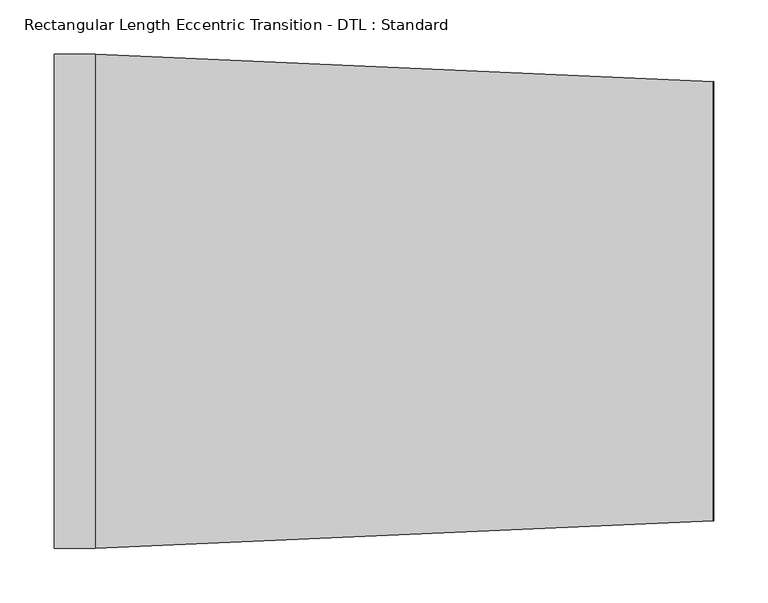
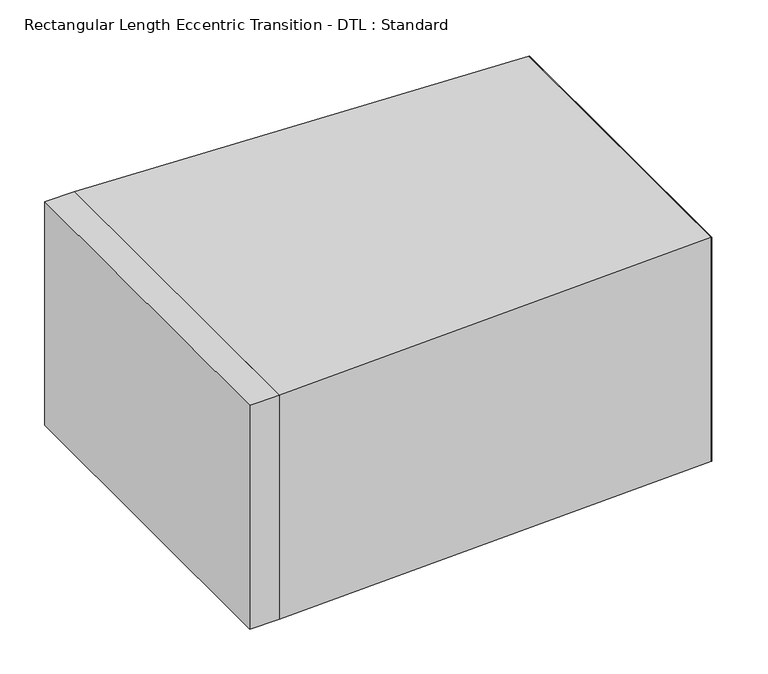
"""IFC4 building model written with IfcOpenShell, lengths in millimetres: duct fitting geometry, Rectangular Length Eccentric Transition - DTL : Standard."""

from ifc_helpers import new_model, si_unit, frame, origin, place, context, project, spatial, polyline, outline, extrude, source, transform, mapped, element, save


def rectangular_length_eccentric_transition_dtl_standard_1da9befa(model_context):
    return source(origin(), model_context, "Body", "SweptSolid", [
        extrude(outline(polyline([(609.6, 203.2), (609.6, -203.2), (608.80625, -203.2), (608.80625, 203.2), (609.6, 203.2)])), frame((0.0, 0.0, -152.4), z_axis=(0.0, 0.0, 1.0), x_axis=(1.0, 0.0, 0.0)), (0.0, 0.0, 1.0), 304.8),
        extrude(outline(polyline([(38.1, 228.6), (38.1, -228.6), (0.0, -228.6), (0.0, 228.6), (38.1, 228.6)])), frame((0.0, 0.0, -152.4), z_axis=(0.0, 0.0, 1.0), x_axis=(1.0, 0.0, 0.0)), (0.0, 0.0, 1.0), 304.8),
        extrude(outline(polyline([(608.80625, 203.2), (608.80625, -203.2), (38.1, -228.6), (38.1, 228.6), (608.80625, 203.2)])), frame((0.0, 0.0, -152.4), z_axis=(0.0, 0.0, 1.0), x_axis=(1.0, 0.0, 0.0)), (0.0, 0.0, 1.0), 304.8),
    ])


if __name__ == "__main__":
    model = new_model("IFC4")
    model_context = context("Model", 3, world=origin())
    ifc_project = project(units=[si_unit("LENGTHUNIT", "METRE", prefix="MILLI")], contexts=[model_context])
    site = spatial("IfcSite", under=ifc_project)
    building = spatial("IfcBuilding", under=site)
    placement = place(None, origin())
    rectangular_length_eccentric_transition_dtl_standard_shape = rectangular_length_eccentric_transition_dtl_standard_1da9befa(model_context)
    element("IfcDuctFitting", 1, ObjectType="Rectangular Length Eccentric Transition - DTL : Standard", at=placement, inside=building, context=model_context, shape_type="MappedRepresentation", body=[
        mapped(rectangular_length_eccentric_transition_dtl_standard_shape, transform((0.0, 0.0, 0.0), x_axis=(1.0, 0.0, 0.0), y_axis=(0.0, 1.0, 0.0), z_axis=(0.0, 0.0, 1.0))),
    ])
    save(model, "model.ifc")
